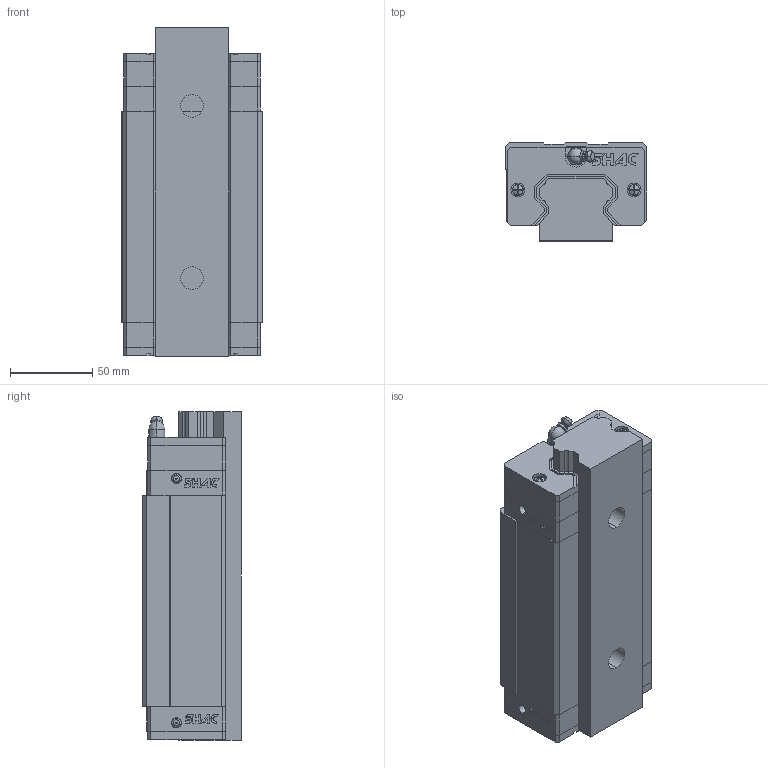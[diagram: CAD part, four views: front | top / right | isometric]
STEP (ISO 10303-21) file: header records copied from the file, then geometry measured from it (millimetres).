
FILE_DESCRIPTION (( 'STEP AP214' ), '1' );
FILE_NAME ('STP_GHL45HA_(E2)自润式_(R)上锁式_刮油片＋防尘条_200_200_1_GHL45HA_GHL45HA.step', '2019-12-23T16:40:56', ( 'IT Division' ), ( 'IT' ), 'SwSTEP 2.0', 'SolidWorks 2016', '' );
FILE_SCHEMA (( 'AUTOMOTIVE_DESIGN' ));
Length unit declared in the file: millimetre
Products named in the file (3): STP_GHL45HA_(E2)自润式_(R)上锁式_刮油片＋防尘条_200_200_1_GHL45HA_GHL45HA; STP_GHL45HA_(E2)自润式_(R)上锁式_刮油片＋防尘条_200_200_1_GHL45HA_GHL45HA_2; STP_GHL45HA_(E2)自润式_(R)上锁式_刮油片＋防尘条_200_200_1_GHL45HA_GHL45HA_1
Assembly tree (2 placements, depth 2):
  STP_GHL45HA_(E2)自润式_(R)上锁式_刮油片＋防尘条_200_200_1_GHL45HA_GHL45HA
    STP_GHL45HA_(E2)自润式_(R)上锁式_刮油片＋防尘条_200_200_1_GHL45HA_GHL45HA_1
    STP_GHL45HA_(E2)自润式_(R)上锁式_刮油片＋防尘条_200_200_1_GHL45HA_GHL45HA_2
Bounding box: 86 x 60 x 200 mm (x, y, z)
Volume: 849393.5 mm3; surface area: 139774.4 mm2
Topology: 8 solids, 8 shells, 850 faces, 2277 edges, 1494 vertices
Faces by surface type: plane 626, cylinder 158, cone 31, torus 25, sphere 10
Entity records: 29299 total; most frequent: CARTESIAN_POINT 4788, ORIENTED_EDGE 4530, DIRECTION 4404, EDGE_CURVE 2265, VECTOR 1764, LINE 1764, VERTEX_POINT 1492, AXIS2_PLACEMENT_3D 1320
